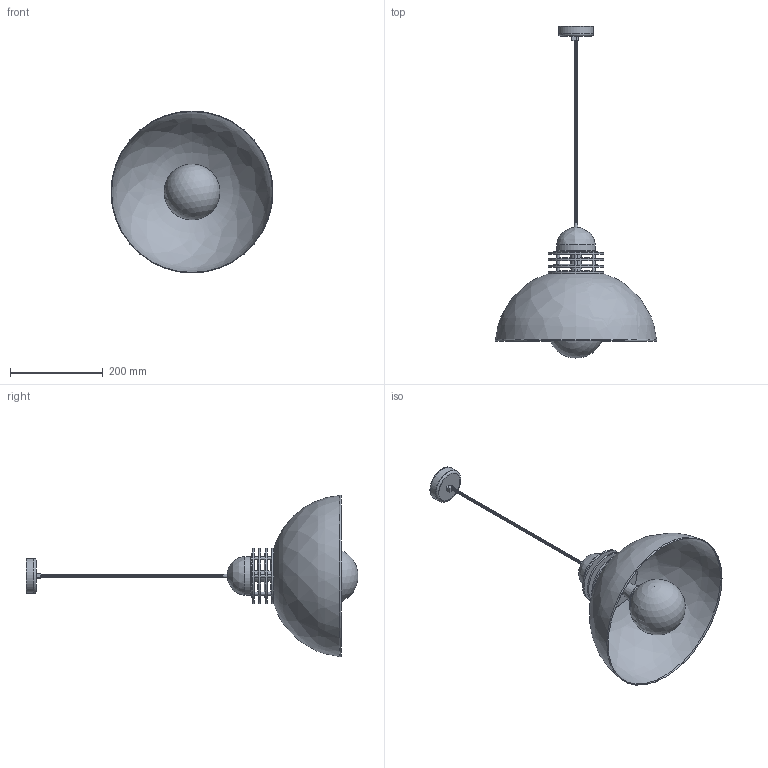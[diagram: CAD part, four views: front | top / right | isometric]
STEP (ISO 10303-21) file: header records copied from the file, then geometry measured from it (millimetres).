
FILE_DESCRIPTION(/* description */ (''),/* implementation_level */ '2;1');
FILE_NAME(/* name */ 'C:\Users\Dominika\Desktop\Modele CZARNY\SOUL 04\LAMPA SOUL 04.stp',/* time_stamp */ '2019-12-05T20:50:11+01:00',/* author */ ('Dominika'),/* organization */ (''),/* preprocessor_version */ 'ST-DEVELOPER v17',/* originating_system */ 'Autodesk Inventor 2019',/* authorisation */ '');
FILE_SCHEMA (('AUTOMOTIVE_DESIGN { 1 0 10303 214 3 1 1 }'));
Length unit declared in the file: millimetre
Products named in the file (16): LAMPA SOUL 04; SOUL 02  klosz I; SOUL 02 klosz III; SOUL 02 łącznik II; SOUL 02 trzymacz kabla; SOUL 02 klosz II; BLUES kabel II; BLUES kabel I; B03 mocowanie zarowki; klosz II; soul 02 łącznik; SOUL 02  klosz I_1; 1. zespol mocowania do sciany; FUNK mocowanie do sciany; FUNK mocowanie kabla; sruba
Assembly tree (419 placements, depth 3):
  LAMPA SOUL 04
    SOUL 02  klosz I
    SOUL 02 klosz III
    SOUL 02 łącznik II
    SOUL 02 trzymacz kabla
    SOUL 02 klosz II  x4
    BLUES kabel II  x200
    BLUES kabel I  x200
    B03 mocowanie zarowki
    klosz II
    soul 02 łącznik  x4
    SOUL 02  klosz I_1
    1. zespol mocowania do sciany
      FUNK mocowanie do sciany
      FUNK mocowanie kabla
      sruba
Bounding box: 348.72 x 714.64 x 348.72 mm (x, y, z)
Volume: 1628285.3 mm3; surface area: 581006.8 mm2
Topology: 418 solids, 418 shells, 1304 faces, 1419 edges, 951 vertices
Faces by surface type: plane 851, cylinder 427, bspline 12, torus 10, cone 3, sphere 1
Full cylindrical faces by diameter (mm): 2.5 x1, 4 x2, 5 x400, 6 x6, 22 x1, 56.973 x1, 73 x1, 75 x1, 83.781 x1, 120 x4
Entity records: 6548 total; most frequent: DIRECTION 1339, CARTESIAN_POINT 1078, AXIS2_PLACEMENT_3D 636, PRODUCT_DEFINITION_SHAPE 435, ITEM_DEFINED_TRANSFORMATION 419, CONTEXT_DEPENDENT_SHAPE_REPRESENTATION 419, NEXT_ASSEMBLY_USAGE_OCCURRENCE 419, ORIENTED_EDGE 378
